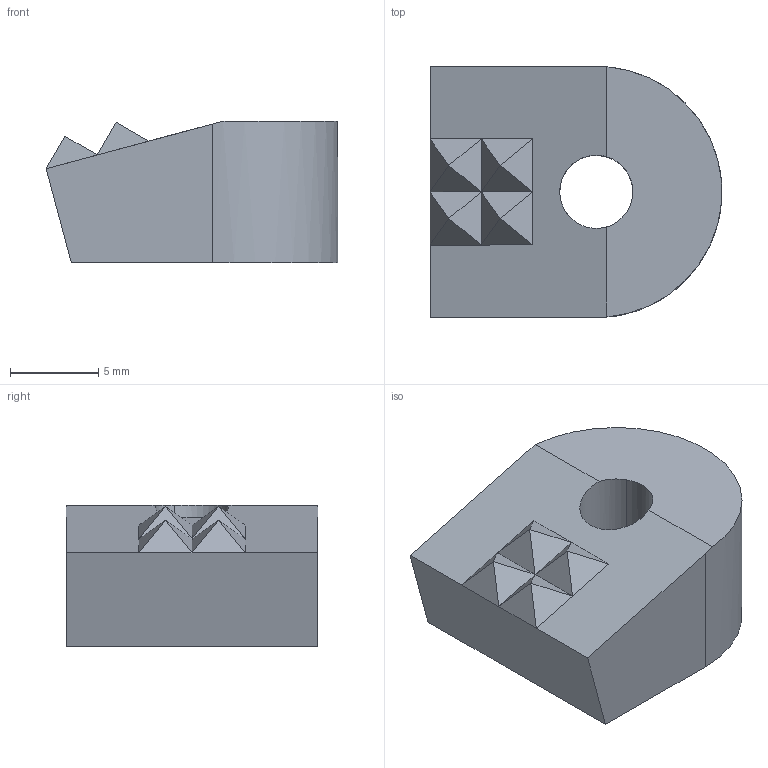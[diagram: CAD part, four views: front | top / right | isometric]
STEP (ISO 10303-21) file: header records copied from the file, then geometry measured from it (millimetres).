
FILE_DESCRIPTION(('CATIA V5 STEP'),'2;1');
FILE_NAME('\\Kjf-102\KJF_TC\Hydraulic_Clamp\Standard\TOGGLE PAD\CP-13\CP-13_-.stp','2020-03-23T08:25:08+00:00',('none'),('none'),'CATIA Version 5 Release 19 SP 6 (IN-10)','CATIA V5 STEP AP214','none');
FILE_SCHEMA(('AUTOMOTIVE_DESIGN { 1 0 10303 214 1 1 1 1 }'));
Length unit declared in the file: millimetre
Products named in the file (1): CP-13_-
Bounding box: 16.5 x 14.2 x 8 mm (x, y, z)
Volume: 1347.8 mm3; surface area: 879.4 mm2
Topology: 1 solids, 1 shells, 28 faces, 59 edges, 33 vertices
Faces by surface type: plane 23, cylinder 5
Entity records: 712 total; most frequent: CARTESIAN_POINT 129, ORIENTED_EDGE 118, DIRECTION 91, EDGE_CURVE 59, VECTOR 45, LINE 45, VERTEX_POINT 33, EDGE_LOOP 30
